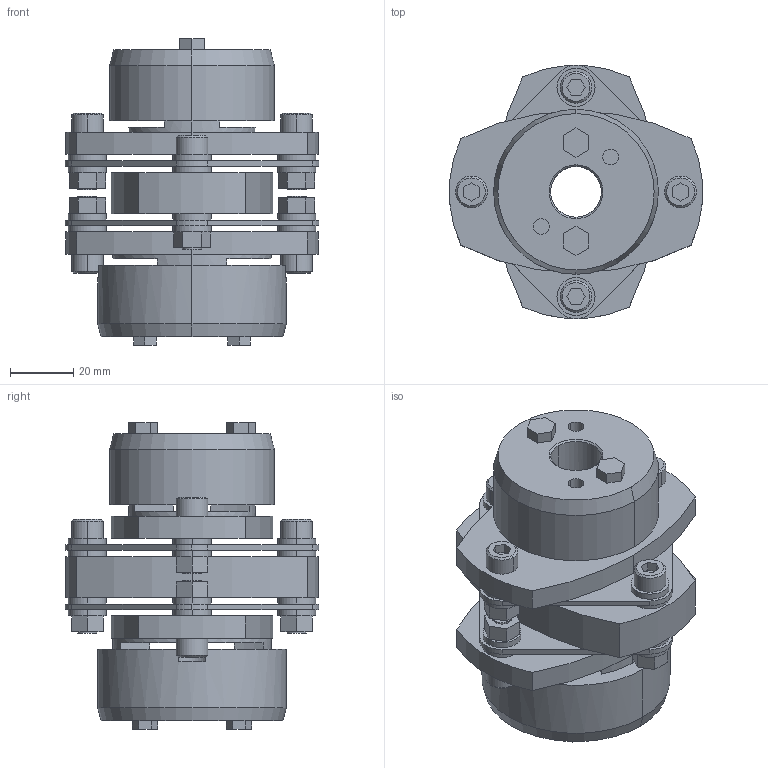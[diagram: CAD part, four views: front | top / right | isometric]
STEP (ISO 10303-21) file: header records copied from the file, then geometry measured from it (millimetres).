
FILE_DESCRIPTION((''),'2;1');
FILE_NAME('LCD-80T7-16×30.stp','2015-10-31T17:25:39',(''),(''),'AutoCAD STEP 2000i','AutoCAD 2000i',', , ');
FILE_SCHEMA(('CONFIG_CONTROL_DESIGN'));
Length unit declared in the file: millimetre
Products named in the file (10): LCD-80T7-17×30; 忣兜1; LC80T7-T030; LC80T7-T028; LC80T7-T024; LC80T7-T022; LC80T7-T019; LC80T7-T017-1; LC80T7-T017; LCD80-ITA
Assembly tree (9 placements, depth 2):
  LCD-80T7-17×30
    忣兜1
    LC80T7-T030
    LC80T7-T028
    LC80T7-T024
    LC80T7-T022
    LC80T7-T019
    LC80T7-T017-1
    LC80T7-T017
    LCD80-ITA
Bounding box: 80 x 79.95 x 96.8 mm (x, y, z)
Volume: 185955.1 mm3; surface area: 57928.4 mm2
Topology: 1 solids, 1 shells, 324 faces, 792 edges, 520 vertices
Faces by surface type: plane 178, cylinder 122, cone 24
Entity records: 9845 total; most frequent: DIRECTION 1748, CARTESIAN_POINT 1646, ORIENTED_EDGE 1584, EDGE_CURVE 792, AXIS2_PLACEMENT_3D 622, VERTEX_POINT 520, VECTOR 504, LINE 504
